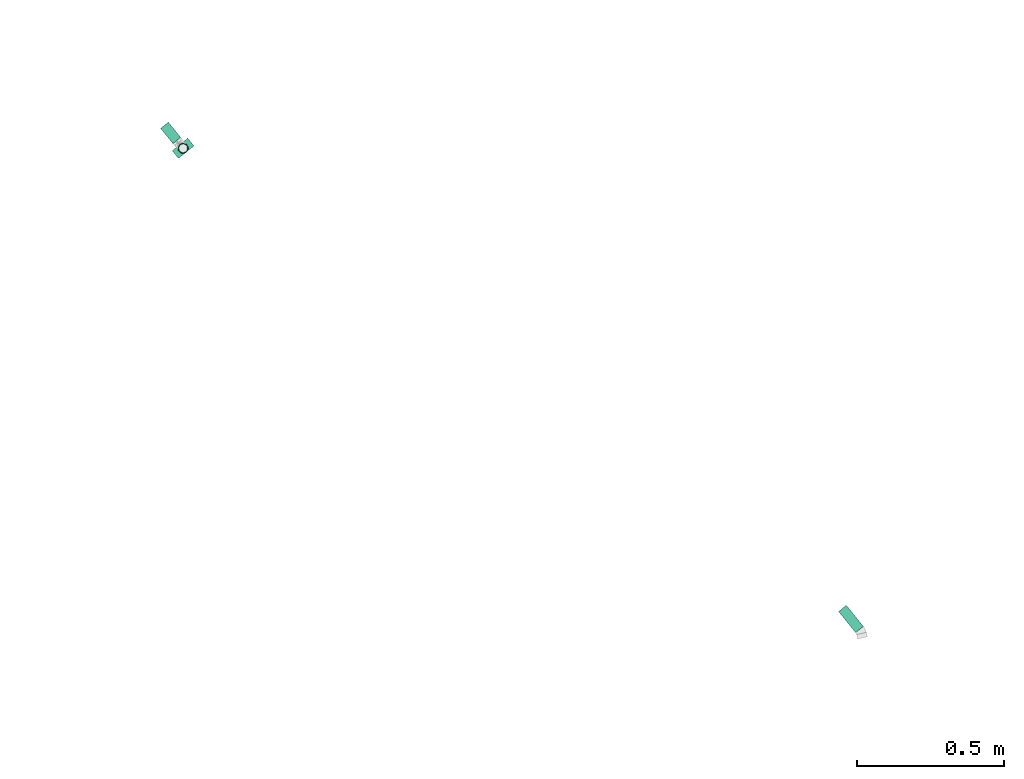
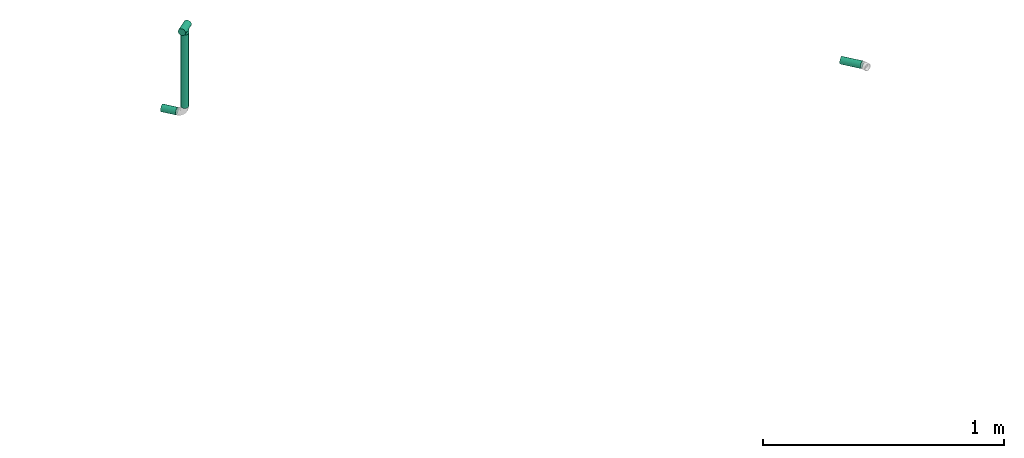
# One storey, part 21 of 63: 3 flow segments, 1 flow fitting.
"""IFC2X3 building model written with IfcOpenShell, lengths in millimetres."""

from ifc_helpers import new_model, entity, si_unit, converted_unit, derived_unit, direction, frame, origin_with_axes, origin_2d_with_axis, place, context, subcontext, project, spatial, hollow_circle, extrude, open_shell, surface_model, source, transform, mapped, type_object, element, save


model = new_model("IFC2X3")

# Units and contexts
model_context = context("Model", 3, precision=0.01, world=frame((0.0, 4.29681676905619e-09, 0.0)), true_north=direction((4.01073788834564e-13, 1.0)))
plan_context = context("Plan", 3, precision=0.01, world=frame((0.0, 4.29681676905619e-09, 0.0)), true_north=direction((4.01073788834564e-13, 1.0)))
body_context = subcontext(model_context, "Body", "Model", "MODEL_VIEW")
ifc_project = project(units=[converted_unit("PLANEANGLEUNIT", "DEGREE", entity("IfcPositiveLengthMeasure", 0.0174532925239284), si_unit("PLANEANGLEUNIT", "RADIAN"), dimensions=[0, 0, 0, 0, 0, 0, 0]), si_unit("AREAUNIT", "SQUARE_METRE"), si_unit("LENGTHUNIT", "METRE", prefix="MILLI"), si_unit("MASSUNIT", "GRAM", prefix="KILO"), si_unit("POWERUNIT", "WATT"), si_unit("PRESSUREUNIT", "PASCAL", prefix="KILO"), si_unit("FORCEUNIT", "NEWTON", prefix="KILO"), si_unit("ELECTRICVOLTAGEUNIT", "VOLT"), si_unit("ELECTRICCURRENTUNIT", "AMPERE"), si_unit("THERMODYNAMICTEMPERATUREUNIT", "DEGREE_CELSIUS"), si_unit("TIMEUNIT", "SECOND"), si_unit("VOLUMEUNIT", "CUBIC_METRE"), derived_unit("LINEARVELOCITYUNIT", [(si_unit("LENGTHUNIT", "METRE"), 1), (si_unit("TIMEUNIT", "SECOND"), -1)]), derived_unit("VOLUMETRICFLOWRATEUNIT", [(si_unit("VOLUMEUNIT", "CUBIC_METRE"), 1), (si_unit("TIMEUNIT", "SECOND"), -1)]), derived_unit("THERMALTRANSMITTANCEUNIT", [(si_unit("POWERUNIT", "WATT"), 1), (si_unit("THERMODYNAMICTEMPERATUREUNIT", "KELVIN"), -1), (si_unit("AREAUNIT", "SQUARE_METRE"), -1)]), derived_unit("SOUNDPRESSUREUNIT", [(si_unit("PRESSUREUNIT", "PASCAL"), 1)])], contexts=[model_context, plan_context])

# Site, building, storey
site_placement = place(None, frame((0.0, -4.29681676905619e-09, 0.0), z_axis=(0.0, 0.0, 1.0), x_axis=(1.0, 0.0, 0.0)))
site = spatial("IfcSite", under=ifc_project, at=site_placement, CompositionType="ELEMENT")
building_placement = place(site_placement, frame((0.0, 4.29681676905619e-09, 0.0), z_axis=(0.0, 0.0, 1.0), x_axis=(1.0, 0.0, 0.0)))
building = spatial("IfcBuilding", under=site, at=building_placement, Name="mc-building", CompositionType="ELEMENT")
storey_placement = place(building_placement, frame((0.0, 0.0, 207370.0), z_axis=(0.0, 0.0, 1.0), x_axis=(1.0, 0.0, 0.0)))
storey = spatial("IfcBuildingStorey", under=building, at=storey_placement, Name="Nivå E", CompositionType="ELEMENT", Elevation=207370.0)

# Flow fitting
pipe_fitting_type = type_object("IfcPipeFittingType", Name="magi_pipe_fe_tee_centric_90_NOR", PredefinedType="JUNCTION")
shared_shape_1 = source(origin_with_axes(), body_context, "Body", "SurfaceModel", [
    surface_model("IfcShellBasedSurfaceModel", [(-33.8, 4.37404, -16.32415), (-33.8, 0.0, -16.9), (-33.8, 16.32415, -4.37404), (-33.8, 8.45, -14.63583), (-33.8, 11.9501, -11.9501), (-33.8, 14.63583, -8.45), (-33.8, -16.9, 0.0), (-33.8, -11.9501, -11.9501), (-33.8, -14.63583, -8.45), (-33.8, -8.45, -14.63583), (-33.8, -4.37404, -16.32415), (-33.8, -16.32415, -4.37404), (-33.8, 14.63583, 8.45), (-33.8, 16.32415, 4.37404), (-33.8, -8.45, 14.63583), (-33.8, 8.45, 14.63583), (-33.8, 11.9501, 11.9501), (-33.8, 4.37404, 16.32415), (-33.8, 0.0, 16.9), (-33.8, -11.9501, 11.9501), (-33.8, -14.63583, 8.45), (-33.8, -16.32415, 4.37404), (-33.8, -4.37404, 16.32415), (-33.8, 16.9, 0.0), (33.8, 4.37404, -16.32415), (33.8, -16.9, 0.0), (33.8, 0.0, -16.9), (33.8, 14.63583, -8.45), (33.8, 8.45, -14.63583), (33.8, 16.32415, -4.37404), (33.8, 11.9501, -11.9501), (33.8, -16.32415, 4.37404), (33.8, -8.45, -14.63583), (33.8, -4.37404, -16.32415), (33.8, -11.9501, -11.9501), (33.8, -14.63583, -8.45), (33.8, -16.32415, -4.37404), (33.8, 16.32415, 4.37404), (33.8, 8.45, 14.63583), (33.8, 14.63583, 8.45), (33.8, 11.9501, 11.9501), (33.8, -8.45, 14.63583), (33.8, 4.37404, 16.32415), (33.8, -14.63583, 8.45), (33.8, -11.9501, 11.9501), (33.8, 0.0, 16.9), (33.8, -4.37404, 16.32415), (33.8, 16.9, 0.0), (16.28698, -16.28698, 4.51047), (16.9, -16.9, 0.0), (14.62704, -14.62704, 8.4652), (9.47213, -9.47213, 13.99602), (12.26343, -12.26343, 11.62834), (-16.9, -16.9, 0.0), (-16.28698, -16.28698, 4.51047), (-14.62704, -14.62704, 8.4652), (-12.26343, -12.26343, 11.62834), (-9.47213, -9.47213, 13.99602), (-6.42894, -6.42894, 15.62942), (6.42894, -6.42894, 15.62942), (3.24522, -3.24522, 16.58549), (0.0, 0.0, 16.9), (-3.24522, -3.24522, 16.58549), (3.24522, -3.24522, -16.58549), (0.0, 0.0, -16.9), (-3.24522, -3.24522, -16.58549), (-6.42894, -6.42894, -15.62942), (6.42894, -6.42894, -15.62942), (9.47213, -9.47213, -13.99602), (12.26343, -12.26343, -11.62834), (14.62704, -14.62704, -8.4652), (16.28698, -16.28698, -4.51047), (-9.47213, -9.47213, -13.99602), (-12.26343, -12.26343, -11.62834), (-16.28698, -16.28698, -4.51047), (-14.62704, -14.62704, -8.4652), (4.37404, -25.35, -16.32415), (-16.9, -25.35, 0.0), (0.0, -25.35, -16.9), (14.63583, -25.35, -8.45), (8.45, -25.35, -14.63583), (16.32415, -25.35, -4.37404), (11.9501, -25.35, -11.9501), (-11.9501, -25.35, -11.9501), (-8.45, -25.35, -14.63583), (-4.37404, -25.35, -16.32415), (-14.63583, -25.35, -8.45), (-16.32415, -25.35, -4.37404), (16.9, -25.35, 0.0), (8.45, -25.35, 14.63583), (16.32415, -25.35, 4.37404), (14.63583, -25.35, 8.45), (-8.45, -25.35, 14.63583), (11.9501, -25.35, 11.9501), (4.37404, -25.35, 16.32415), (-16.32415, -25.35, 4.37404), (-11.9501, -25.35, 11.9501), (-14.63583, -25.35, 8.45), (0.0, -25.35, 16.9), (-4.37404, -25.35, 16.32415)], [open_shell([[[0, 1, 2]], [[3, 0, 4]], [[0, 2, 5]], [[4, 0, 5]], [[6, 2, 1]], [[7, 8, 9]], [[1, 10, 9]], [[11, 6, 8]], [[1, 9, 8]], [[1, 8, 6]], [[6, 12, 2]], [[12, 13, 2]], [[14, 12, 6]], [[12, 14, 15]], [[16, 12, 15]], [[17, 15, 18]], [[19, 14, 20]], [[21, 20, 14]], [[22, 18, 14]], [[14, 6, 21]], [[14, 18, 15]], [[23, 2, 13]], [[24, 25, 26]], [[27, 24, 28]], [[27, 29, 24]], [[27, 28, 30]], [[31, 25, 24]], [[26, 32, 33]], [[26, 34, 32]], [[35, 25, 36]], [[35, 34, 26]], [[25, 35, 26]], [[24, 29, 31]], [[29, 37, 38]], [[38, 37, 39]], [[38, 31, 29]], [[38, 39, 40]], [[41, 38, 42]], [[43, 41, 44]], [[41, 43, 31]], [[41, 45, 46]], [[41, 31, 38]], [[42, 45, 41]], [[29, 47, 37]], [[31, 43, 48]], [[25, 31, 49]], [[49, 31, 48]], [[43, 50, 48]], [[44, 41, 51]], [[50, 43, 52]], [[51, 52, 44]], [[52, 43, 44]], [[53, 54, 21]], [[53, 21, 6]], [[21, 54, 20]], [[54, 55, 20]], [[56, 57, 19]], [[19, 20, 56]], [[19, 57, 14]], [[56, 20, 55]], [[14, 57, 58]], [[51, 41, 59]], [[60, 45, 61]], [[59, 46, 60]], [[46, 59, 41]], [[60, 46, 45]], [[61, 45, 42]], [[39, 37, 13]], [[16, 38, 40]], [[12, 40, 39]], [[42, 38, 15]], [[23, 37, 47]], [[62, 61, 18]], [[62, 22, 58]], [[22, 62, 18]], [[58, 22, 14]], [[61, 17, 18]], [[42, 17, 61]], [[15, 17, 42]], [[15, 38, 16]], [[12, 16, 40]], [[13, 12, 39]], [[37, 23, 13]], [[5, 27, 30]], [[23, 47, 29]], [[30, 28, 3]], [[27, 2, 29]], [[26, 33, 63]], [[26, 64, 24]], [[64, 26, 63]], [[28, 24, 0]], [[64, 0, 24]], [[4, 30, 3]], [[2, 27, 5]], [[5, 30, 4]], [[2, 23, 29]], [[65, 66, 10]], [[1, 0, 64]], [[1, 65, 10]], [[66, 9, 10]], [[0, 3, 28]], [[1, 64, 65]], [[63, 33, 67]], [[32, 34, 68]], [[69, 68, 34]], [[35, 70, 69]], [[69, 34, 35]], [[32, 68, 67]], [[36, 25, 49]], [[36, 71, 35]], [[71, 36, 49]], [[35, 71, 70]], [[72, 9, 66]], [[72, 7, 9]], [[7, 72, 73]], [[7, 73, 8]], [[74, 53, 11]], [[75, 74, 8]], [[74, 11, 8]], [[11, 53, 6]], [[75, 8, 73]], [[32, 67, 33]], [[76, 77, 78]], [[79, 76, 80]], [[79, 81, 76]], [[79, 80, 82]], [[77, 76, 81]], [[78, 83, 84]], [[84, 85, 78]], [[86, 77, 87]], [[83, 78, 86]], [[77, 86, 78]], [[81, 88, 77]], [[89, 88, 90]], [[89, 90, 91]], [[92, 77, 89]], [[89, 91, 93]], [[92, 89, 94]], [[95, 96, 97]], [[96, 95, 92]], [[92, 98, 99]], [[95, 77, 92]], [[94, 98, 92]], [[89, 77, 88]], [[77, 95, 53]], [[54, 53, 95]], [[97, 96, 56]], [[96, 92, 57]], [[95, 97, 54]], [[58, 92, 99]], [[55, 54, 97]], [[56, 55, 97]], [[58, 57, 92]], [[98, 61, 62]], [[58, 99, 62]], [[56, 96, 57]], [[62, 99, 98]], [[94, 60, 98]], [[89, 59, 94]], [[91, 90, 48]], [[52, 93, 91]], [[93, 51, 89]], [[49, 90, 88]], [[59, 60, 94]], [[51, 59, 89]], [[49, 48, 90]], [[50, 52, 91]], [[48, 50, 91]], [[51, 93, 52]], [[98, 60, 61]], [[88, 81, 49]], [[71, 49, 81]], [[79, 82, 69]], [[82, 80, 68]], [[81, 79, 71]], [[67, 80, 76]], [[70, 71, 79]], [[69, 70, 79]], [[67, 68, 80]], [[78, 64, 63]], [[67, 76, 63]], [[69, 82, 68]], [[63, 76, 78]], [[85, 65, 78]], [[84, 66, 85]], [[86, 87, 74]], [[86, 73, 83]], [[72, 84, 83]], [[53, 87, 77]], [[66, 65, 85]], [[72, 66, 84]], [[53, 74, 87]], [[75, 73, 86]], [[74, 75, 86]], [[72, 83, 73]], [[78, 65, 64]]])]),
])
flow_fitting_placement = place(storey_placement, frame((725084.66483, 445096.14764, 7030.0), z_axis=(-0.629320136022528, 0.777146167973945, 0.0), x_axis=(-0.777146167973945, -0.629320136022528, 0.0)))
element("IfcFlowFitting", 1, at=flow_fitting_placement, inside=storey, type_object=pipe_fitting_type, Name="magi_pipe_fe_tee_centric_90_NOR", context=body_context, shape_type="MappedRepresentation", body=[
    mapped(shared_shape_1, transform((0.0, 0.0, 0.0), scale=1.0)),
])

# Flow segments
pipe_segment_type = type_object("IfcPipeSegmentType", Name="Stålrør normaltykke", PredefinedType="RIGIDSEGMENT")
shared_shape_2 = source(origin_with_axes(), body_context, "Body", "SweptSolid", [
    extrude(hollow_circle(Radius=16.9, WallThickness=2.0, at=origin_2d_with_axis()), frame((0.0, 0.0, 0.0), z_axis=(1.0, 0.0, 0.0), x_axis=(0.0, 1.0, 0.0)), (0.0, 0.0, 1.0), 66.9),
])
flow_segment_1_placement = place(storey_placement, frame((725063.3938, 445122.41518, 6600.0), z_axis=(0.0, 0.0, 1.0), x_axis=(-0.629320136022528, 0.777146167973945, 0.0)))
element("IfcFlowSegment", 2, at=flow_segment_1_placement, inside=storey, type_object=pipe_segment_type, Name="Stålrør normaltykke", context=body_context, shape_type="MappedRepresentation", body=[
    mapped(shared_shape_2, transform((0.0, 0.0, 0.0), scale=1.0)),
])
shared_shape_3 = source(origin_with_axes(), body_context, "Body", "SweptSolid", [
    extrude(hollow_circle(Radius=16.9, WallThickness=2.0, at=origin_2d_with_axis()), frame((0.0, 0.0, 0.0), z_axis=(1.0, 0.0, 0.0), x_axis=(0.0, 1.0, 0.0)), (0.0, 0.0, 1.0), 370.8),
])
flow_segment_2_placement = place(storey_placement, frame((725084.66483, 445096.14764, 7004.64999999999), z_axis=(-0.629320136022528, 0.777146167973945, 0.0), x_axis=(0.0, 0.0, -1.0)))
element("IfcFlowSegment", 3, at=flow_segment_2_placement, inside=storey, type_object=pipe_segment_type, Name="Stålrør normaltykke", context=body_context, shape_type="MappedRepresentation", body=[
    mapped(shared_shape_3, transform((0.0, 0.0, 0.0), scale=1.0)),
])
shared_shape_4 = source(origin_with_axes(), body_context, "Body", "SweptSolid", [
    extrude(hollow_circle(Radius=16.9, WallThickness=2.0, at=origin_2d_with_axis()), frame((0.0, 0.0, 0.0), z_axis=(1.0, 0.0, 0.0), x_axis=(0.0, 1.0, 0.0)), (0.0, 0.0, 1.0), 92.5),
])
flow_segment_3_placement = place(storey_placement, frame((727323.33275, 443533.88446, 7030.0), z_axis=(0.0, 0.0, 1.0), x_axis=(0.629320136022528, -0.777146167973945, 0.0)))
element("IfcFlowSegment", 4, at=flow_segment_3_placement, inside=storey, type_object=pipe_segment_type, Name="Stålrør normaltykke", context=body_context, shape_type="MappedRepresentation", body=[
    mapped(shared_shape_4, transform((0.0, 0.0, 0.0), scale=1.0)),
])

save(model, "model.ifc")
